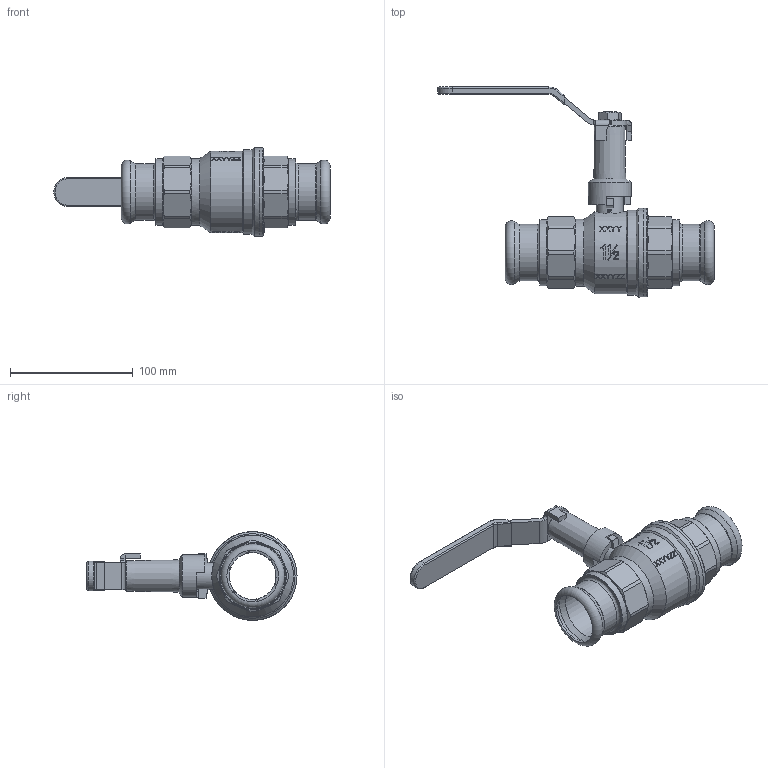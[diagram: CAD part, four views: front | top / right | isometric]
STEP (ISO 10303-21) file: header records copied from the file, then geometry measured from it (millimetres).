
FILE_DESCRIPTION((''),'2;1');
FILE_NAME('P:\Fastrack\53972_CRANE 3D\Press Fit\Fig_100PF\100EXS-PF\42MM\Fig_100EXS-PF-42MM.stp','2012-01-19T09:10:57',('dcole'),(''),'Autodesk Inventor 2008','Autodesk Inventor 2008','');
FILE_SCHEMA(('AUTOMOTIVE_DESIGN { 1 0 10303 214 1 1 1 1 }'));
Length unit declared in the file: millimetre
Products named in the file (1): Fig_100EXS-PF-42MM
Bounding box: 225.1 x 171.15 x 72.3 mm (x, y, z)
Volume: 246553.3 mm3; surface area: 113819.7 mm2
Topology: 1 solids, 8 shells, 928 faces, 2774 edges, 1973 vertices
Faces by surface type: plane 464, bspline 200, cylinder 157, cone 85, torus 19, sphere 3
Full cylindrical faces by diameter (mm): 3 x1, 10.25 x1, 12 x2, 12.1 x2, 12.5 x1, 13 x2, 13.5 x1, 15.5 x1, 16 x1, 16.1 x1, 16.3 x1, 16.5 x2, 22 x1, 25.5 x1, 30 x1, 35 x1, 39.5 x3, 39.7 x2, 42 x4, 44.6 x2, 44.845 x1, 44.854 x1, 46 x2, 48.55 x2, 49 x2, 50 x4, 54 x2, 54.5 x1, 57.5 x1, 62 x1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
Entity records: 65812 total; most frequent: CARTESIAN_POINT 41853, ORIENTED_EDGE 5170, DIRECTION 3940, EDGE_CURVE 2585, VERTEX_POINT 1914, AXIS2_PLACEMENT_3D 1336, VECTOR 1268, LINE 1268
